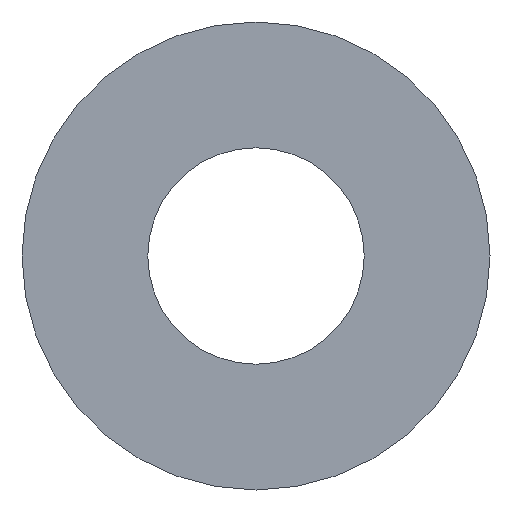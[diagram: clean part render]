
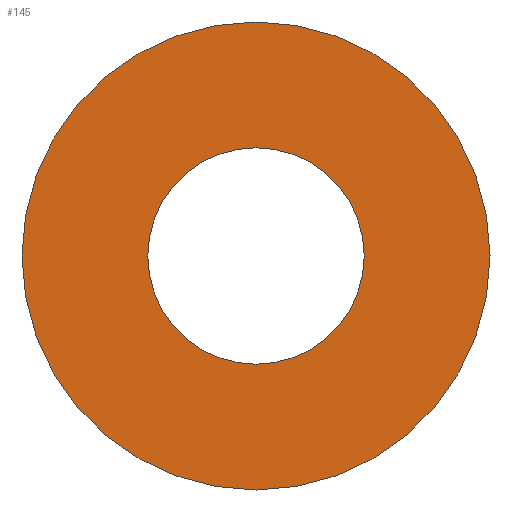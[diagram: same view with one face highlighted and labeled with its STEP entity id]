
A CAD part, front view. The second image highlights one B-rep face of the part: STEP entity #145.
In plain terms, the highlighted planar face has unit normal (0, -1, 0).
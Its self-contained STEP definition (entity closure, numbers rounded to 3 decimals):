
#1 = FACE_BOUND ( 'NONE', #239, .T. ) ;
#6 = EDGE_CURVE ( 'NONE', #65, #83, #107, .T. ) ;
#10 = EDGE_CURVE ( 'NONE', #140, #174, #68, .T. ) ;
#18 = AXIS2_PLACEMENT_3D ( 'NONE', #93, #111, #114 ) ;
#20 = FACE_OUTER_BOUND ( 'NONE', #236, .T. ) ;
#23 = PLANE ( 'NONE',  #34 ) ;
#34 = AXIS2_PLACEMENT_3D ( 'NONE', #47, #97, #214 ) ;
#42 = ORIENTED_EDGE ( 'NONE', *, *, #10, .F. ) ;
#47 = CARTESIAN_POINT ( 'NONE',  ( 0., -0.5, 4. ) ) ;
#57 = CARTESIAN_POINT ( 'NONE',  ( 0., -0.5, -1.85 ) ) ;
#65 = VERTEX_POINT ( 'NONE', #135 ) ;
#68 = CIRCLE ( 'NONE', #176, 4. ) ;
#71 = ORIENTED_EDGE ( 'NONE', *, *, #232, .F. ) ;
#81 = CARTESIAN_POINT ( 'NONE',  ( 0., -0.5, 0. ) ) ;
#83 = VERTEX_POINT ( 'NONE', #57 ) ;
#93 = CARTESIAN_POINT ( 'NONE',  ( 0., -0.5, 0. ) ) ;
#96 = CARTESIAN_POINT ( 'NONE',  ( 0., -0.5, 0. ) ) ;
#97 = DIRECTION ( 'NONE',  ( 0., -1., 0. ) ) ;
#98 = AXIS2_PLACEMENT_3D ( 'NONE', #81, #218, #100 ) ;
#99 = DIRECTION ( 'NONE',  ( 0., 0., 1. ) ) ;
#100 = DIRECTION ( 'NONE',  ( 0., 0., 1. ) ) ;
#107 = CIRCLE ( 'NONE', #18, 1.85 ) ;
#111 = DIRECTION ( 'NONE',  ( 0., 1., 0. ) ) ;
#113 = ORIENTED_EDGE ( 'NONE', *, *, #161, .T. ) ;
#114 = DIRECTION ( 'NONE',  ( 0., 0., 1. ) ) ;
#118 = CARTESIAN_POINT ( 'NONE',  ( 0., -0.5, -4. ) ) ;
#135 = CARTESIAN_POINT ( 'NONE',  ( 0., -0.5, 1.85 ) ) ;
#140 = VERTEX_POINT ( 'NONE', #164 ) ;
#145 = ADVANCED_FACE ( 'NONE', ( #1, #20 ), #23, .T. ) ;
#161 = EDGE_CURVE ( 'NONE', #83, #65, #200, .T. ) ;
#164 = CARTESIAN_POINT ( 'NONE',  ( 0., -0.5, 4. ) ) ;
#172 = AXIS2_PLACEMENT_3D ( 'NONE', #192, #234, #99 ) ;
#174 = VERTEX_POINT ( 'NONE', #118 ) ;
#175 = DIRECTION ( 'NONE',  ( 0., 0., 1. ) ) ;
#176 = AXIS2_PLACEMENT_3D ( 'NONE', #96, #246, #175 ) ;
#189 = CIRCLE ( 'NONE', #98, 4. ) ;
#192 = CARTESIAN_POINT ( 'NONE',  ( 0., -0.5, 0. ) ) ;
#200 = CIRCLE ( 'NONE', #172, 1.85 ) ;
#214 = DIRECTION ( 'NONE',  ( 0., 0., -1. ) ) ;
#218 = DIRECTION ( 'NONE',  ( 0., 1., 0. ) ) ;
#222 = ORIENTED_EDGE ( 'NONE', *, *, #6, .T. ) ;
#232 = EDGE_CURVE ( 'NONE', #174, #140, #189, .T. ) ;
#234 = DIRECTION ( 'NONE',  ( 0., 1., 0. ) ) ;
#236 = EDGE_LOOP ( 'NONE', ( #42, #71 ) ) ;
#239 = EDGE_LOOP ( 'NONE', ( #222, #113 ) ) ;
#246 = DIRECTION ( 'NONE',  ( 0., 1., 0. ) ) ;
